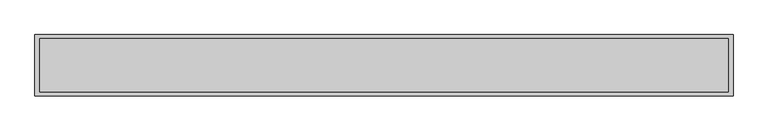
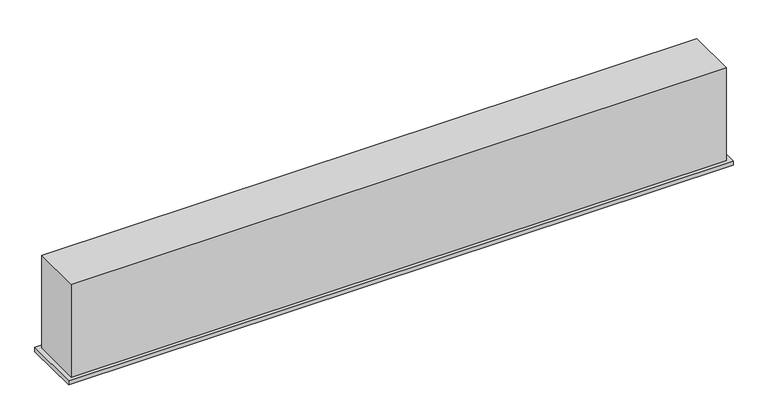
"""IFC4 building model written with IfcOpenShell, lengths in millimetres: air terminal geometry, 033_線状吹出口_BL : BL-T."""

from ifc_helpers import new_model, si_unit, frame, origin, origin_with_axes, place, context, project, spatial, polyline, outline, extrude, source, transform, mapped, element, save


def air_terminal_18f8da69(model_context):
    return source(origin(), model_context, "Body", "SweptSolid", [
        extrude(outline(polyline([(761.0, -66.75), (-761.0, -66.75), (-761.0, 66.75), (761.0, 66.75), (761.0, -66.75)]), holes=[polyline([(750.0, -58.0), (750.0, 58.0), (-750.0, 58.0), (-750.0, -58.0), (750.0, -58.0)])]), frame((0.0, 0.0, -10.0), z_axis=(0.0, 0.0, 1.0), x_axis=(1.0, 0.0, 0.0)), (0.0, 0.0, 1.0), 10.0),
        extrude(outline(polyline([(750.0, 58.0), (750.0, -58.0), (-750.0, -58.0), (-750.0, 58.0), (750.0, 58.0)])), origin_with_axes(), (0.0, 0.0, 1.0), 225.0),
    ])


if __name__ == "__main__":
    model = new_model("IFC4")
    model_context = context("Model", 3, world=origin())
    ifc_project = project(units=[si_unit("LENGTHUNIT", "METRE", prefix="MILLI")], contexts=[model_context])
    site = spatial("IfcSite", under=ifc_project)
    building = spatial("IfcBuilding", under=site)
    placement = place(None, origin())
    air_terminal_shape = air_terminal_18f8da69(model_context)
    element("IfcAirTerminal", 1, ObjectType="033_線状吹出口_BL : BL-T", at=placement, inside=building, context=model_context, shape_type="MappedRepresentation", body=[
        mapped(air_terminal_shape, transform((0.0, 0.0, 0.0), x_axis=(1.0, 0.0, 0.0), y_axis=(0.0, 1.0, 0.0), z_axis=(0.0, 0.0, 1.0))),
    ])
    save(model, "model.ifc")
